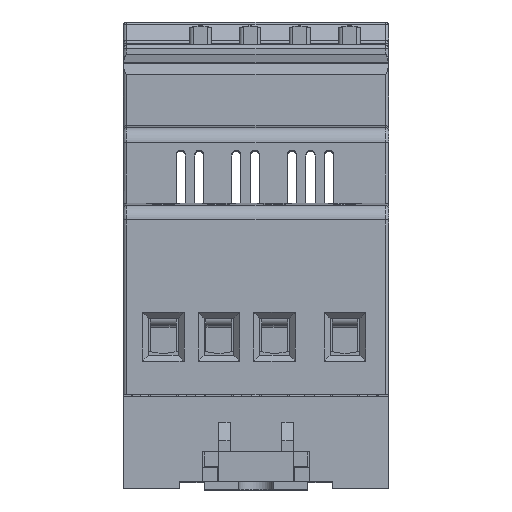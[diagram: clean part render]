
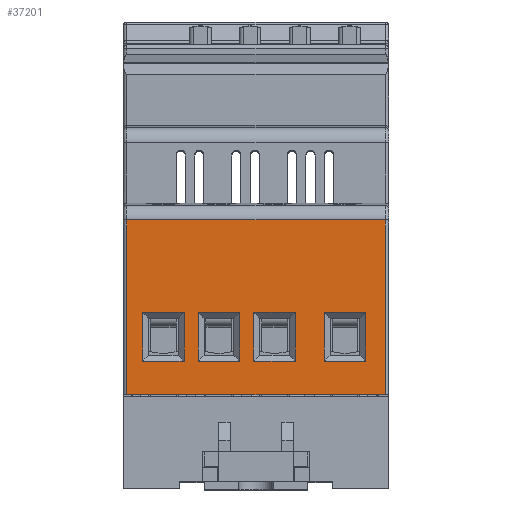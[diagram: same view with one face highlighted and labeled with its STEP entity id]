
A CAD part, top view. The second image highlights one B-rep face of the part: STEP entity #37201.
In plain terms, the highlighted planar face has unit normal (0, 0, 1).
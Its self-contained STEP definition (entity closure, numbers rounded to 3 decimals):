
#5904=ORIENTED_EDGE('',*,*,#12372,.T.);
#5905=ORIENTED_EDGE('',*,*,#12373,.T.);
#5906=ORIENTED_EDGE('',*,*,#12374,.T.);
#5907=ORIENTED_EDGE('',*,*,#12375,.T.);
#5908=ORIENTED_EDGE('',*,*,#12376,.T.);
#5909=ORIENTED_EDGE('',*,*,#12377,.T.);
#5910=ORIENTED_EDGE('',*,*,#12378,.T.);
#5911=ORIENTED_EDGE('',*,*,#12379,.T.);
#5912=ORIENTED_EDGE('',*,*,#12380,.T.);
#5913=ORIENTED_EDGE('',*,*,#12381,.T.);
#5914=ORIENTED_EDGE('',*,*,#12382,.T.);
#5915=ORIENTED_EDGE('',*,*,#12383,.T.);
#5916=ORIENTED_EDGE('',*,*,#12384,.T.);
#5917=ORIENTED_EDGE('',*,*,#12385,.T.);
#5918=ORIENTED_EDGE('',*,*,#12386,.T.);
#5919=ORIENTED_EDGE('',*,*,#12387,.T.);
#5920=ORIENTED_EDGE('',*,*,#12388,.T.);
#5921=ORIENTED_EDGE('',*,*,#12389,.T.);
#5922=ORIENTED_EDGE('',*,*,#12390,.T.);
#5923=ORIENTED_EDGE('',*,*,#12391,.T.);
#12372=EDGE_CURVE('',#18824,#18825,#24839,.T.);
#12373=EDGE_CURVE('',#18825,#18826,#24840,.T.);
#12374=EDGE_CURVE('',#18826,#18827,#24841,.T.);
#12375=EDGE_CURVE('',#18827,#18824,#24842,.T.);
#12376=EDGE_CURVE('',#18828,#18829,#24843,.T.);
#12377=EDGE_CURVE('',#18829,#18830,#24844,.T.);
#12378=EDGE_CURVE('',#18830,#18831,#24845,.T.);
#12379=EDGE_CURVE('',#18831,#18828,#24846,.T.);
#12380=EDGE_CURVE('',#18832,#18833,#24847,.T.);
#12381=EDGE_CURVE('',#18833,#18834,#24848,.T.);
#12382=EDGE_CURVE('',#18834,#18835,#24849,.T.);
#12383=EDGE_CURVE('',#18835,#18832,#24850,.T.);
#12384=EDGE_CURVE('',#18836,#18837,#24851,.T.);
#12385=EDGE_CURVE('',#18837,#18838,#24852,.T.);
#12386=EDGE_CURVE('',#18838,#18839,#24853,.T.);
#12387=EDGE_CURVE('',#18839,#18836,#24854,.T.);
#12388=EDGE_CURVE('',#18840,#18841,#24855,.T.);
#12389=EDGE_CURVE('',#18841,#18842,#24856,.T.);
#12390=EDGE_CURVE('',#18842,#18843,#24857,.T.);
#12391=EDGE_CURVE('',#18843,#18840,#24858,.T.);
#18824=VERTEX_POINT('',#63223);
#18825=VERTEX_POINT('',#63224);
#18826=VERTEX_POINT('',#63226);
#18827=VERTEX_POINT('',#63228);
#18828=VERTEX_POINT('',#63231);
#18829=VERTEX_POINT('',#63232);
#18830=VERTEX_POINT('',#63234);
#18831=VERTEX_POINT('',#63236);
#18832=VERTEX_POINT('',#63239);
#18833=VERTEX_POINT('',#63240);
#18834=VERTEX_POINT('',#63242);
#18835=VERTEX_POINT('',#63244);
#18836=VERTEX_POINT('',#63247);
#18837=VERTEX_POINT('',#63248);
#18838=VERTEX_POINT('',#63250);
#18839=VERTEX_POINT('',#63252);
#18840=VERTEX_POINT('',#63255);
#18841=VERTEX_POINT('',#63256);
#18842=VERTEX_POINT('',#63258);
#18843=VERTEX_POINT('',#63260);
#24839=LINE('',#63222,#29477);
#24840=LINE('',#63225,#29478);
#24841=LINE('',#63227,#29479);
#24842=LINE('',#63229,#29480);
#24843=LINE('',#63230,#29481);
#24844=LINE('',#63233,#29482);
#24845=LINE('',#63235,#29483);
#24846=LINE('',#63237,#29484);
#24847=LINE('',#63238,#29485);
#24848=LINE('',#63241,#29486);
#24849=LINE('',#63243,#29487);
#24850=LINE('',#63245,#29488);
#24851=LINE('',#63246,#29489);
#24852=LINE('',#63249,#29490);
#24853=LINE('',#63251,#29491);
#24854=LINE('',#63253,#29492);
#24855=LINE('',#63254,#29493);
#24856=LINE('',#63257,#29494);
#24857=LINE('',#63259,#29495);
#24858=LINE('',#63261,#29496);
#29477=VECTOR('',#51242,1000.);
#29478=VECTOR('',#51243,1000.);
#29479=VECTOR('',#51244,1000.);
#29480=VECTOR('',#51245,1000.);
#29481=VECTOR('',#51246,1000.);
#29482=VECTOR('',#51247,1000.);
#29483=VECTOR('',#51248,1000.);
#29484=VECTOR('',#51249,1000.);
#29485=VECTOR('',#51250,1000.);
#29486=VECTOR('',#51251,1000.);
#29487=VECTOR('',#51252,1000.);
#29488=VECTOR('',#51253,1000.);
#29489=VECTOR('',#51254,1000.);
#29490=VECTOR('',#51255,1000.);
#29491=VECTOR('',#51256,1000.);
#29492=VECTOR('',#51257,1000.);
#29493=VECTOR('',#51258,1000.);
#29494=VECTOR('',#51259,1000.);
#29495=VECTOR('',#51260,1000.);
#29496=VECTOR('',#51261,1000.);
#33773=EDGE_LOOP('',(#5904,#5905,#5906,#5907));
#33774=EDGE_LOOP('',(#5908,#5909,#5910,#5911));
#33775=EDGE_LOOP('',(#5912,#5913,#5914,#5915));
#33776=EDGE_LOOP('',(#5916,#5917,#5918,#5919));
#33777=EDGE_LOOP('',(#5920,#5921,#5922,#5923));
#35105=FACE_BOUND('',#33773,.T.);
#35106=FACE_BOUND('',#33774,.T.);
#35107=FACE_BOUND('',#33775,.T.);
#35108=FACE_BOUND('',#33776,.T.);
#35109=FACE_BOUND('',#33777,.T.);
#36314=PLANE('',#47585);
#37201=ADVANCED_FACE('',(#35105,#35106,#35107,#35108,#35109),#36314,.T.);
#47585=AXIS2_PLACEMENT_3D('',#63221,#51240,#51241);
#51240=DIRECTION('',(0.,0.,1.));
#51241=DIRECTION('',(1.,0.,0.));
#51242=DIRECTION('',(0.,1.,0.));
#51243=DIRECTION('',(1.,0.,0.));
#51244=DIRECTION('',(0.,-1.,0.));
#51245=DIRECTION('',(-1.,0.,0.));
#51246=DIRECTION('',(-1.,0.,0.));
#51247=DIRECTION('',(0.,1.,0.));
#51248=DIRECTION('',(1.,0.,0.));
#51249=DIRECTION('',(0.,-1.,0.));
#51250=DIRECTION('',(0.,1.,0.));
#51251=DIRECTION('',(1.,0.,0.));
#51252=DIRECTION('',(0.,-1.,0.));
#51253=DIRECTION('',(-1.,0.,0.));
#51254=DIRECTION('',(-1.,0.,0.));
#51255=DIRECTION('',(0.,1.,0.));
#51256=DIRECTION('',(1.,0.,0.));
#51257=DIRECTION('',(0.,-1.,0.));
#51258=DIRECTION('',(1.,0.,0.));
#51259=DIRECTION('',(0.,1.,0.));
#51260=DIRECTION('',(-1.,0.,0.));
#51261=DIRECTION('',(0.,-1.,0.));
#63221=CARTESIAN_POINT('',(-38.365,0.601,45.875));
#63222=CARTESIAN_POINT('',(-11.265,15.101,45.875));
#63223=CARTESIAN_POINT('',(-11.265,11.801,45.875));
#63224=CARTESIAN_POINT('',(-11.265,18.401,45.875));
#63225=CARTESIAN_POINT('',(-8.465,18.401,45.875));
#63226=CARTESIAN_POINT('',(-5.665,18.401,45.875));
#63227=CARTESIAN_POINT('',(-5.665,15.101,45.875));
#63228=CARTESIAN_POINT('',(-5.665,11.801,45.875));
#63229=CARTESIAN_POINT('',(-8.465,11.801,45.875));
#63230=CARTESIAN_POINT('',(-32.965,11.801,45.875));
#63231=CARTESIAN_POINT('',(-30.165,11.801,45.875));
#63232=CARTESIAN_POINT('',(-35.765,11.801,45.875));
#63233=CARTESIAN_POINT('',(-35.765,15.101,45.875));
#63234=CARTESIAN_POINT('',(-35.765,18.401,45.875));
#63235=CARTESIAN_POINT('',(-32.965,18.401,45.875));
#63236=CARTESIAN_POINT('',(-30.165,18.401,45.875));
#63237=CARTESIAN_POINT('',(-30.165,15.101,45.875));
#63238=CARTESIAN_POINT('',(-28.265,15.101,45.875));
#63239=CARTESIAN_POINT('',(-28.265,11.801,45.875));
#63240=CARTESIAN_POINT('',(-28.265,18.401,45.875));
#63241=CARTESIAN_POINT('',(-25.465,18.401,45.875));
#63242=CARTESIAN_POINT('',(-22.665,18.401,45.875));
#63243=CARTESIAN_POINT('',(-22.665,15.101,45.875));
#63244=CARTESIAN_POINT('',(-22.665,11.801,45.875));
#63245=CARTESIAN_POINT('',(-25.465,11.801,45.875));
#63246=CARTESIAN_POINT('',(-17.965,11.801,45.875));
#63247=CARTESIAN_POINT('',(-15.165,11.801,45.875));
#63248=CARTESIAN_POINT('',(-20.765,11.801,45.875));
#63249=CARTESIAN_POINT('',(-20.765,15.101,45.875));
#63250=CARTESIAN_POINT('',(-20.765,18.401,45.875));
#63251=CARTESIAN_POINT('',(-17.965,18.401,45.875));
#63252=CARTESIAN_POINT('',(-15.165,18.401,45.875));
#63253=CARTESIAN_POINT('',(-15.165,15.101,45.875));
#63254=CARTESIAN_POINT('',(-20.465,7.301,45.875));
#63255=CARTESIAN_POINT('',(-37.865,7.301,45.875));
#63256=CARTESIAN_POINT('',(-3.065,7.301,45.875));
#63257=CARTESIAN_POINT('',(-3.065,19.074,45.875));
#63258=CARTESIAN_POINT('',(-3.065,30.848,45.875));
#63259=CARTESIAN_POINT('',(-20.465,30.848,45.875));
#63260=CARTESIAN_POINT('',(-37.865,30.848,45.875));
#63261=CARTESIAN_POINT('',(-37.865,19.074,45.875));
